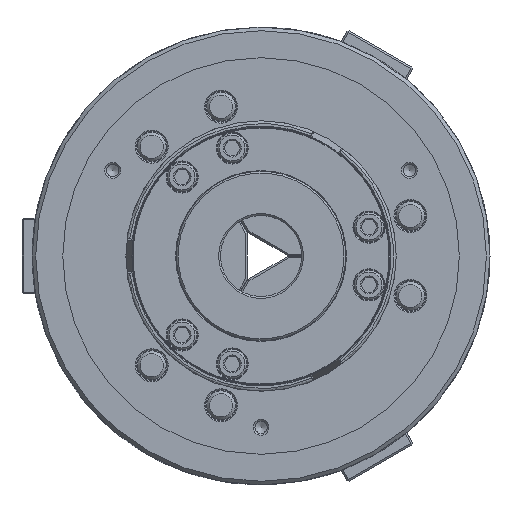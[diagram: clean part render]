
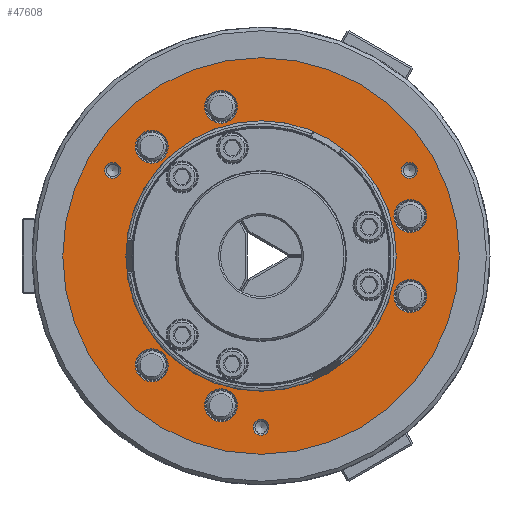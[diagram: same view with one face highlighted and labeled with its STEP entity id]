
A CAD part, left-side view. The second image highlights one B-rep face of the part: STEP entity #47608.
In plain terms, the highlighted planar face has unit normal (-1, 0, 0).
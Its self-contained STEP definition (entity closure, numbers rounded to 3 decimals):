
#434 = AXIS2_PLACEMENT_3D ( 'NONE', #40186, #919, #22685 ) ;
#572 = VERTEX_POINT ( 'NONE', #48082 ) ;
#635 = DIRECTION ( 'NONE',  ( 0., 0., -1. ) ) ;
#919 = DIRECTION ( 'NONE',  ( 1., 0., 0. ) ) ;
#996 = FACE_BOUND ( 'NONE', #21305, .T. ) ;
#2152 = VERTEX_POINT ( 'NONE', #9130 ) ;
#2998 = DIRECTION ( 'NONE',  ( 1., 0., 0. ) ) ;
#3394 = CIRCLE ( 'NONE', #52449, 9.1 ) ;
#4376 = EDGE_CURVE ( 'NONE', #16103, #16103, #10699, .T. ) ;
#4719 = EDGE_CURVE ( 'NONE', #36450, #36450, #27836, .T. ) ;
#5394 = ORIENTED_EDGE ( 'NONE', *, *, #4376, .T. ) ;
#5461 = CARTESIAN_POINT ( 'NONE',  ( -95., -82.804, -22.187 ) ) ;
#5970 = PLANE ( 'NONE',  #26756 ) ;
#6445 = EDGE_LOOP ( 'NONE', ( #59022 ) ) ;
#7125 = CIRCLE ( 'NONE', #47040, 4.4 ) ;
#7712 = CIRCLE ( 'NONE', #22490, 9.1 ) ;
#7970 = EDGE_LOOP ( 'NONE', ( #48190 ) ) ;
#8351 = DIRECTION ( 'NONE',  ( 0., 0., -1. ) ) ;
#8974 = CARTESIAN_POINT ( 'NONE',  ( -95., 60.617, 51.517 ) ) ;
#9130 = CARTESIAN_POINT ( 'NONE',  ( -95., 22.187, 73.704 ) ) ;
#9148 = ORIENTED_EDGE ( 'NONE', *, *, #28329, .F. ) ;
#9625 = FACE_BOUND ( 'NONE', #15141, .T. ) ;
#10157 = CIRCLE ( 'NONE', #27246, 9.1 ) ;
#10443 = DIRECTION ( 'NONE',  ( 0., 0., -1. ) ) ;
#10699 = CIRCLE ( 'NONE', #44995, 110. ) ;
#10805 = DIRECTION ( 'NONE',  ( 1., 0., 0. ) ) ;
#11627 = EDGE_CURVE ( 'NONE', #65443, #65443, #7125, .T. ) ;
#13297 = VERTEX_POINT ( 'NONE', #8974 ) ;
#14293 = DIRECTION ( 'NONE',  ( 1., 0., 0. ) ) ;
#15141 = EDGE_LOOP ( 'NONE', ( #23644 ) ) ;
#15722 = CARTESIAN_POINT ( 'NONE',  ( -95., 110., 0. ) ) ;
#16056 = CARTESIAN_POINT ( 'NONE',  ( -95., -82.272, 47.5 ) ) ;
#16103 = VERTEX_POINT ( 'NONE', #54362 ) ;
#16645 = EDGE_CURVE ( 'NONE', #63133, #63133, #62510, .T. ) ;
#16699 = EDGE_CURVE ( 'NONE', #2152, #2152, #7712, .T. ) ;
#17079 = FACE_BOUND ( 'NONE', #54931, .T. ) ;
#17422 = FACE_BOUND ( 'NONE', #36039, .T. ) ;
#18188 = CIRCLE ( 'NONE', #27269, 9.1 ) ;
#19133 = EDGE_LOOP ( 'NONE', ( #23177 ) ) ;
#20008 = CARTESIAN_POINT ( 'NONE',  ( -95., -82.804, 22.187 ) ) ;
#20139 = DIRECTION ( 'NONE',  ( -1., 0., 0. ) ) ;
#20884 = AXIS2_PLACEMENT_3D ( 'NONE', #16056, #27098, #31366 ) ;
#21066 = FACE_BOUND ( 'NONE', #19133, .T. ) ;
#21305 = EDGE_LOOP ( 'NONE', ( #9148 ) ) ;
#22490 = AXIS2_PLACEMENT_3D ( 'NONE', #47277, #69116, #8351 ) ;
#22685 = DIRECTION ( 'NONE',  ( 0., 0., -1. ) ) ;
#22767 = FACE_BOUND ( 'NONE', #66448, .T. ) ;
#23082 = ORIENTED_EDGE ( 'NONE', *, *, #70269, .T. ) ;
#23177 = ORIENTED_EDGE ( 'NONE', *, *, #4719, .F. ) ;
#23319 = CARTESIAN_POINT ( 'NONE',  ( -95., -82.804, 13.087 ) ) ;
#23644 = ORIENTED_EDGE ( 'NONE', *, *, #16699, .T. ) ;
#23868 = EDGE_LOOP ( 'NONE', ( #57550 ) ) ;
#25101 = EDGE_CURVE ( 'NONE', #572, #572, #68815, .T. ) ;
#26756 = AXIS2_PLACEMENT_3D ( 'NONE', #15722, #27750, #635 ) ;
#27098 = DIRECTION ( 'NONE',  ( -1., 0., 0. ) ) ;
#27246 = AXIS2_PLACEMENT_3D ( 'NONE', #20008, #14293, #37105 ) ;
#27269 = AXIS2_PLACEMENT_3D ( 'NONE', #5461, #10805, #10443 ) ;
#27750 = DIRECTION ( 'NONE',  ( 1., 0., 0. ) ) ;
#27836 = CIRCLE ( 'NONE', #67847, 75. ) ;
#28085 = ORIENTED_EDGE ( 'NONE', *, *, #11627, .F. ) ;
#28315 = VERTEX_POINT ( 'NONE', #67314 ) ;
#28329 = EDGE_CURVE ( 'NONE', #53822, #53822, #60095, .T. ) ;
#30214 = ORIENTED_EDGE ( 'NONE', *, *, #25101, .F. ) ;
#31160 = DIRECTION ( 'NONE',  ( 0., 0., 1. ) ) ;
#31366 = DIRECTION ( 'NONE',  ( 0., 0., 1. ) ) ;
#35267 = DIRECTION ( 'NONE',  ( 0., 0., -1. ) ) ;
#35756 = VERTEX_POINT ( 'NONE', #57260 ) ;
#36039 = EDGE_LOOP ( 'NONE', ( #58596 ) ) ;
#36450 = VERTEX_POINT ( 'NONE', #58305 ) ;
#37105 = DIRECTION ( 'NONE',  ( 0., 0., -1. ) ) ;
#37222 = AXIS2_PLACEMENT_3D ( 'NONE', #48324, #48689, #59773 ) ;
#37623 = DIRECTION ( 'NONE',  ( -1., 0., 0. ) ) ;
#38067 = CARTESIAN_POINT ( 'NONE',  ( -95., 82.272, 51.9 ) ) ;
#40186 = CARTESIAN_POINT ( 'NONE',  ( -95., 60.617, 60.617 ) ) ;
#40870 = DIRECTION ( 'NONE',  ( 0., 0., -1. ) ) ;
#41833 = CARTESIAN_POINT ( 'NONE',  ( -95., 0., 0. ) ) ;
#41915 = DIRECTION ( 'NONE',  ( 0., 0., 1. ) ) ;
#42736 = EDGE_LOOP ( 'NONE', ( #5394 ) ) ;
#44191 = FACE_BOUND ( 'NONE', #6445, .T. ) ;
#44995 = AXIS2_PLACEMENT_3D ( 'NONE', #69121, #20139, #41915 ) ;
#45818 = EDGE_LOOP ( 'NONE', ( #30214 ) ) ;
#46227 = CARTESIAN_POINT ( 'NONE',  ( -95., 22.187, -82.804 ) ) ;
#47040 = AXIS2_PLACEMENT_3D ( 'NONE', #58042, #37623, #31160 ) ;
#47198 = DIRECTION ( 'NONE',  ( 0., 0., 1. ) ) ;
#47277 = CARTESIAN_POINT ( 'NONE',  ( -95., 22.187, 82.804 ) ) ;
#47608 = ADVANCED_FACE ( 'NONE', ( #996, #55684, #60675, #58620, #22767, #9625, #17079, #44191, #17422, #21066, #64702 ), #5970, .F. ) ;
#48082 = CARTESIAN_POINT ( 'NONE',  ( -95., -82.272, 51.9 ) ) ;
#48190 = ORIENTED_EDGE ( 'NONE', *, *, #16645, .T. ) ;
#48324 = CARTESIAN_POINT ( 'NONE',  ( -95., 82.272, 47.5 ) ) ;
#48689 = DIRECTION ( 'NONE',  ( -1., 0., 0. ) ) ;
#51422 = DIRECTION ( 'NONE',  ( 1., 0., 0. ) ) ;
#52449 = AXIS2_PLACEMENT_3D ( 'NONE', #58434, #51422, #35267 ) ;
#53822 = VERTEX_POINT ( 'NONE', #38067 ) ;
#54010 = DIRECTION ( 'NONE',  ( -1., 0., 0. ) ) ;
#54362 = CARTESIAN_POINT ( 'NONE',  ( -95., 0., 110. ) ) ;
#54931 = EDGE_LOOP ( 'NONE', ( #28085 ) ) ;
#55684 = FACE_BOUND ( 'NONE', #45818, .T. ) ;
#56365 = CIRCLE ( 'NONE', #434, 9.1 ) ;
#56731 = EDGE_CURVE ( 'NONE', #60884, #60884, #10157, .T. ) ;
#57260 = CARTESIAN_POINT ( 'NONE',  ( -95., -82.804, -31.287 ) ) ;
#57550 = ORIENTED_EDGE ( 'NONE', *, *, #60311, .T. ) ;
#58042 = CARTESIAN_POINT ( 'NONE',  ( -95., 0., -95. ) ) ;
#58305 = CARTESIAN_POINT ( 'NONE',  ( -95., 0., 75. ) ) ;
#58434 = CARTESIAN_POINT ( 'NONE',  ( -95., 60.617, -60.617 ) ) ;
#58596 = ORIENTED_EDGE ( 'NONE', *, *, #68315, .T. ) ;
#58620 = FACE_BOUND ( 'NONE', #23868, .T. ) ;
#59022 = ORIENTED_EDGE ( 'NONE', *, *, #56731, .T. ) ;
#59773 = DIRECTION ( 'NONE',  ( 0., 0., 1. ) ) ;
#60095 = CIRCLE ( 'NONE', #37222, 4.4 ) ;
#60311 = EDGE_CURVE ( 'NONE', #28315, #28315, #3394, .T. ) ;
#60675 = FACE_BOUND ( 'NONE', #7970, .T. ) ;
#60781 = CARTESIAN_POINT ( 'NONE',  ( -95., 0., -90.6 ) ) ;
#60884 = VERTEX_POINT ( 'NONE', #23319 ) ;
#62510 = CIRCLE ( 'NONE', #64775, 9.1 ) ;
#63133 = VERTEX_POINT ( 'NONE', #68507 ) ;
#64702 = FACE_OUTER_BOUND ( 'NONE', #42736, .T. ) ;
#64775 = AXIS2_PLACEMENT_3D ( 'NONE', #46227, #2998, #40870 ) ;
#65443 = VERTEX_POINT ( 'NONE', #60781 ) ;
#66448 = EDGE_LOOP ( 'NONE', ( #23082 ) ) ;
#67314 = CARTESIAN_POINT ( 'NONE',  ( -95., 60.617, -69.717 ) ) ;
#67847 = AXIS2_PLACEMENT_3D ( 'NONE', #41833, #54010, #47198 ) ;
#68315 = EDGE_CURVE ( 'NONE', #35756, #35756, #18188, .T. ) ;
#68507 = CARTESIAN_POINT ( 'NONE',  ( -95., 22.187, -91.904 ) ) ;
#68815 = CIRCLE ( 'NONE', #20884, 4.4 ) ;
#69116 = DIRECTION ( 'NONE',  ( 1., 0., 0. ) ) ;
#69121 = CARTESIAN_POINT ( 'NONE',  ( -95., 0., 0. ) ) ;
#70269 = EDGE_CURVE ( 'NONE', #13297, #13297, #56365, .T. ) ;
